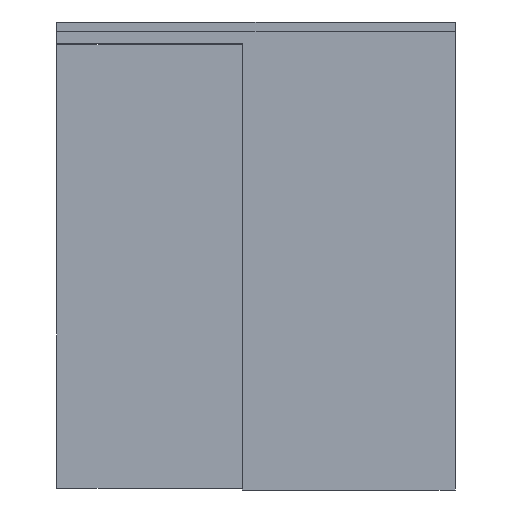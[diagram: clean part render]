
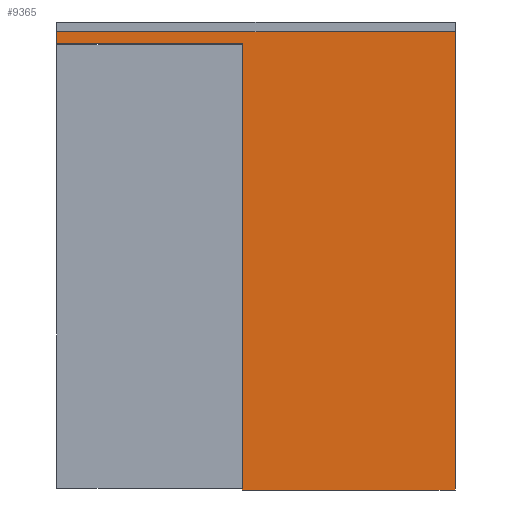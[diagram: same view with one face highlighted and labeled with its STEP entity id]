
A CAD part, front view. The second image highlights one B-rep face of the part: STEP entity #9365.
In plain terms, the highlighted planar face has unit normal (0, -1, 0).
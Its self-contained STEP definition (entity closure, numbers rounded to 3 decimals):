
#9365=ADVANCED_FACE('',(#16077),#16078,.F.);
#16077=FACE_OUTER_BOUND('',#26140,.T.);
#16078=PLANE('',#26141);
#26140=EDGE_LOOP('',(#30259,#30260,#30261,#30262,#30263,#30264));
#26141=AXIS2_PLACEMENT_3D('',#30265,#30266,#30267);
#30259=ORIENTED_EDGE('',*,*,#39135,.T.);
#30260=ORIENTED_EDGE('',*,*,#39125,.F.);
#30261=ORIENTED_EDGE('',*,*,#39129,.F.);
#30262=ORIENTED_EDGE('',*,*,#39133,.T.);
#30263=ORIENTED_EDGE('',*,*,#39136,.F.);
#30264=ORIENTED_EDGE('',*,*,#39137,.F.);
#30265=CARTESIAN_POINT('',(0.0,-46.5,2333.0));
#30266=DIRECTION('',(0.0,1.0,-0.0));
#30267=DIRECTION('',(0.0,0.0,1.0));
#39125=EDGE_CURVE('',#44218,#44213,#44220,.T.);
#39129=EDGE_CURVE('',#44224,#44218,#44226,.T.);
#39133=EDGE_CURVE('',#44224,#44230,#44232,.T.);
#39135=EDGE_CURVE('',#44234,#44213,#44235,.T.);
#39136=EDGE_CURVE('',#44236,#44230,#44237,.T.);
#39137=EDGE_CURVE('',#44234,#44236,#44238,.T.);
#44213=VERTEX_POINT('',#46153);
#44218=VERTEX_POINT('',#46160);
#44220=LINE('',#46163,#46164);
#44224=VERTEX_POINT('',#46169);
#44226=LINE('',#46172,#46173);
#44230=VERTEX_POINT('',#46178);
#44232=LINE('',#46181,#46182);
#44234=VERTEX_POINT('',#46184);
#44235=LINE('',#46185,#46186);
#44236=VERTEX_POINT('',#46187);
#44237=LINE('',#46188,#46189);
#44238=LINE('',#46190,#46191);
#46153=CARTESIAN_POINT('',(955.0,-46.5,2299.5));
#46160=CARTESIAN_POINT('',(955.0,-46.5,0.0));
#46163=CARTESIAN_POINT('',(955.0,-46.5,7.0));
#46164=VECTOR('',#48857,1.0);
#46169=CARTESIAN_POINT('',(2050.0,-46.5,0.0));
#46172=CARTESIAN_POINT('',(1327.5,-46.5,0.0));
#46173=VECTOR('',#48860,1.0);
#46178=CARTESIAN_POINT('',(2050.0,-46.5,2360.0));
#46181=CARTESIAN_POINT('',(2050.0,-46.5,7.0));
#46182=VECTOR('',#48863,1.0);
#46184=CARTESIAN_POINT('',(0.0,-46.5,2299.5));
#46185=CARTESIAN_POINT('',(0.0,-46.5,2299.5));
#46186=VECTOR('',#48864,1.0);
#46187=CARTESIAN_POINT('',(0.0,-46.5,2360.0));
#46188=CARTESIAN_POINT('',(1270.0,-46.5,2360.0));
#46189=VECTOR('',#48865,1.0);
#46190=CARTESIAN_POINT('',(0.0,-46.5,2301.0));
#46191=VECTOR('',#48866,1.0);
#48857=DIRECTION('',(0.0,0.0,1.0));
#48860=DIRECTION('',(-1.0,0.0,0.0));
#48863=DIRECTION('',(0.0,0.0,1.0));
#48864=DIRECTION('',(1.0,0.0,0.0));
#48865=DIRECTION('',(1.0,0.0,0.0));
#48866=DIRECTION('',(0.0,0.0,1.0));
